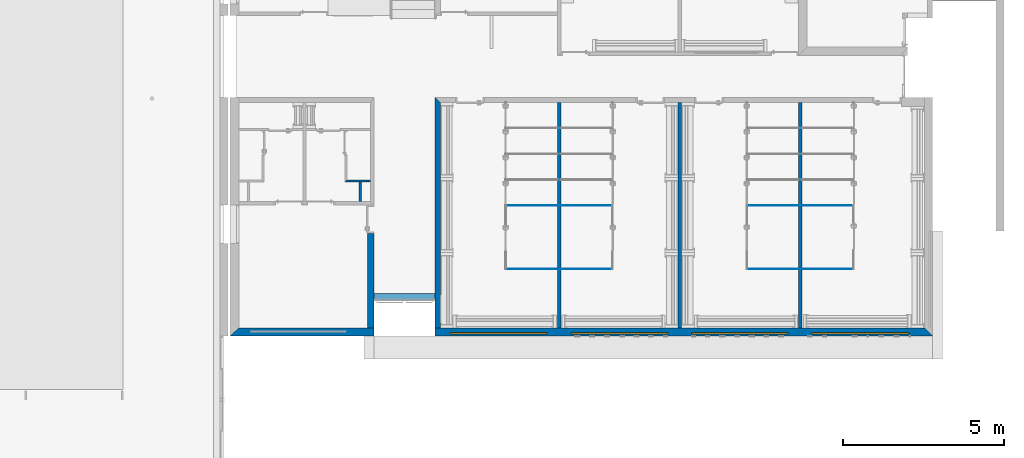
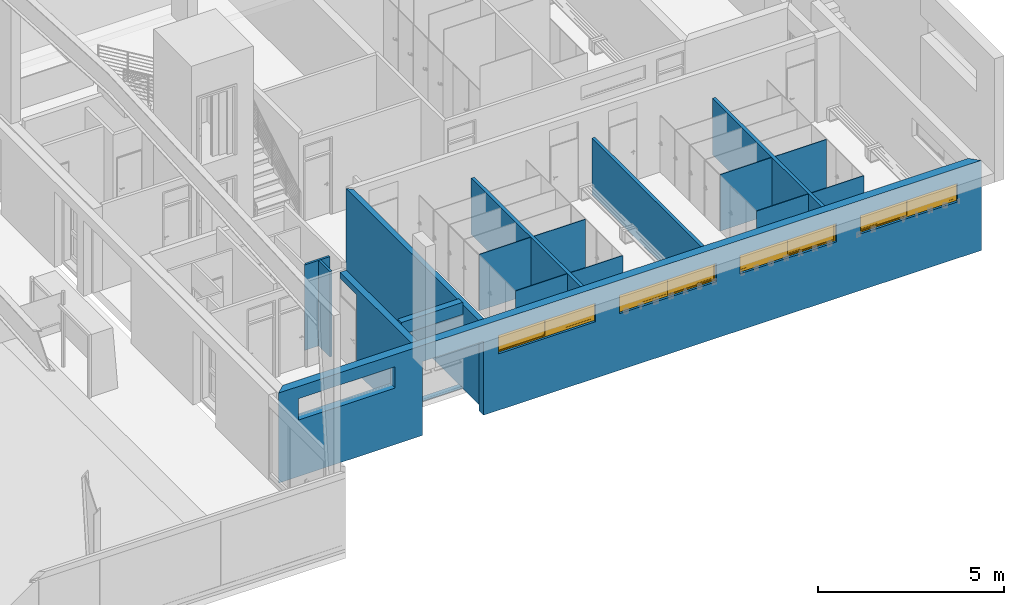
# One storey, part 11 of 45: 17 walls, 4 windows, 8 openings.
"""IFC2X3 building model written with IfcOpenShell, lengths in metres."""

from ifc_helpers import new_model, entity, si_unit, converted_unit, money_unit, direction, frame, origin_with_axes, place, context, subcontext, project, spatial, polyline, outline, extrude, open_shell, faceted_brep, surface_model, source, transform, mapped, material, layer, layer_set, layer_usage, type_object, element, fill, save


model = new_model("IFC2X3")

# Units and contexts
model_context = context("Model", 3, precision=1e-05, world=origin_with_axes(), true_north=direction((0.0, 1.0)))
body_context = subcontext(model_context, "Body", "Model", "MODEL_VIEW")
ifc_project = project(units=[si_unit("LENGTHUNIT", "METRE"), si_unit("AREAUNIT", "SQUARE_METRE"), si_unit("VOLUMEUNIT", "CUBIC_METRE"), converted_unit("PLANEANGLEUNIT", "DEGREE", entity("IfcPlaneAngleMeasure", 0.0174532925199), si_unit("PLANEANGLEUNIT", "RADIAN"), dimensions=[0, 0, 0, 0, 0, 0, 0]), si_unit("SOLIDANGLEUNIT", "STERADIAN"), money_unit("EUR"), converted_unit("TIMEUNIT", "Year", entity("IfcTimeMeasure", 31556926.0), si_unit("TIMEUNIT", "SECOND"), dimensions=[0, 0, 0, 0, 0, 0, 0]), si_unit("MASSUNIT", "GRAM"), si_unit("THERMODYNAMICTEMPERATUREUNIT", "DEGREE_CELSIUS"), si_unit("LUMINOUSINTENSITYUNIT", "LUMEN")], contexts=[model_context])

# Site, building, storey
site_placement = place(None, origin_with_axes())
site = spatial("IfcSite", under=ifc_project, at=site_placement, Name="Site", CompositionType="ELEMENT")
building_placement = place(site_placement, origin_with_axes())
building = spatial("IfcBuilding", under=site, at=building_placement, Name="Bâtiment", CompositionType="ELEMENT")
storey_placement = place(building_placement, origin_with_axes())
storey = spatial("IfcBuildingStorey", under=building, at=storey_placement, Name="NIVEAU BAS GYMNASE", CompositionType="ELEMENT", Elevation=0.0)

# Walls
ifc_material_1 = material(Name="Hachure solide* 3962059836")
ifc_layer_1 = layer(ifc_material_1, 0.07, ventilated="UNKNOWN")
ifc_layer_set_1 = layer_set([ifc_layer_1], Name="Hachure solide* 3962059836 0.07")
ifc_layer_usage_1 = layer_usage(ifc_layer_set_1, "AXIS2", "POSITIVE", 0.0)
wall_type_1 = type_object("IfcWallType", Name="Hachure solide* 3962059836 70", PredefinedType="NOTDEFINED")
wall_1_placement = place(storey_placement, frame((49.838457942, 10.7156830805, 0.0), z_axis=(0.0, 0.0, 1.0), x_axis=(-1.0, 0.0, 0.0)))
element("IfcWallStandardCase", 1, at=wall_1_placement, inside=storey, type_object=wall_type_1, material=ifc_layer_usage_1, Name="Mur-004", context=body_context, shape_type="SweptSolid", body=[
    extrude(outline(polyline([(0.0, 0.0), (0.73, 0.0), (0.8, 0.07), (0.0, 0.07), (0.0, 0.0)])), origin_with_axes(), (0.0, 0.0, 1.0), 2.8),
])
ifc_layer_usage_2 = layer_usage(ifc_layer_set_1, "AXIS2", "POSITIVE", 0.0)
wall_2_placement = place(storey_placement, frame((49.4837596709, 10.7156830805, 0.0), z_axis=(0.0, 0.0, 1.0), x_axis=(0.0, -1.0, 0.0)))
element("IfcWallStandardCase", 2, at=wall_2_placement, inside=storey, type_object=wall_type_1, material=ifc_layer_usage_2, Name="Mur-004", context=body_context, shape_type="SweptSolid", body=[
    extrude(outline(polyline([(0.07, 0.0), (0.676867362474, 0.0), (0.676867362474, 0.07), (0.07, 0.07), (0.07, 0.0)])), origin_with_axes(), (0.0, 0.0, 1.0), 2.8),
])
ifc_layer_2 = layer(ifc_material_1, 0.1, ventilated="UNKNOWN")
ifc_layer_set_2 = layer_set([ifc_layer_2], Name="Hachure solide* 3962059836 0.1")
ifc_layer_usage_3 = layer_usage(ifc_layer_set_2, "AXIS2", "POSITIVE", -0.05)
wall_type_2 = type_object("IfcWallType", Name="Hachure solide* 3962059836 100", PredefinedType="NOTDEFINED")
wall_3_placement = place(storey_placement, frame((63.153457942, 13.108815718, 0.0), z_axis=(0.0, 0.0, 1.0), x_axis=(0.0, -1.0, 0.0)))
element("IfcWallStandardCase", 3, at=wall_3_placement, inside=storey, type_object=wall_type_2, material=ifc_layer_usage_3, Name="Mur-007", context=body_context, shape_type="SweptSolid", body=[
    extrude(outline(polyline([(0.0, -0.05), (6.98000000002, -0.05), (6.98000000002, 0.05), (0.0, 0.05), (0.0, -0.05)])), origin_with_axes(), (0.0, 0.0, 1.0), 1.85),
])
ifc_layer_usage_4 = layer_usage(ifc_layer_set_2, "AXIS2", "POSITIVE", -0.05)
wall_4_placement = place(storey_placement, frame((55.683457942, 13.108815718, 0.0), z_axis=(0.0, 0.0, 1.0), x_axis=(0.0, -1.0, 0.0)))
element("IfcWallStandardCase", 4, at=wall_4_placement, inside=storey, type_object=wall_type_2, material=ifc_layer_usage_4, Name="Mur-007", context=body_context, shape_type="SweptSolid", body=[
    extrude(outline(polyline([(0.0, -0.05), (6.98000000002, -0.05), (6.98000000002, 0.05), (0.0, 0.05), (0.0, -0.05)])), origin_with_axes(), (0.0, 0.0, 1.0), 1.85),
])
ifc_layer_usage_5 = layer_usage(ifc_layer_set_2, "AXIS2", "POSITIVE", -0.05)
wall_5_placement = place(storey_placement, frame((59.418457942, 13.108815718, 0.0), z_axis=(0.0, 0.0, 1.0), x_axis=(0.0, -1.0, 0.0)))
element("IfcWallStandardCase", 5, at=wall_5_placement, inside=storey, type_object=wall_type_2, material=ifc_layer_usage_5, Name="Mur-007", context=body_context, shape_type="SweptSolid", body=[
    extrude(outline(polyline([(0.0, -0.05), (6.98000000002, -0.05), (6.98000000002, 0.05), (0.0, 0.05), (0.0, -0.05)])), origin_with_axes(), (0.0, 0.0, 1.0), 1.85),
])

# Wall, openings, windows
ifc_material_2 = material(Name="Hachure solide* 2593434267")
ifc_layer_3 = layer(ifc_material_2, 0.16, ventilated="UNKNOWN")
ifc_material_3 = material(Name="Empty Fill 290923149")
ifc_layer_4 = layer(ifc_material_3, 0.08, ventilated="UNKNOWN")
ifc_material_4 = material(Name="Hachure solide* 3992800808")
ifc_layer_5 = layer(ifc_material_4, 0.02, ventilated="UNKNOWN")
ifc_layer_set_3 = layer_set([ifc_layer_3, ifc_layer_4, ifc_layer_5], Name="•GYMN 16+10 (1)")
ifc_layer_usage_6 = layer_usage(ifc_layer_set_3, "AXIS2", "POSITIVE", 0.0)
wall_type_3 = type_object("IfcWallType", Name="•GYMN 16+10 260", PredefinedType="NOTDEFINED")
wall_6_placement = place(storey_placement, frame((45.478457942, 5.86881571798, -0.2), z_axis=(0.0, 0.0, 1.0), x_axis=(1.0, 0.0, 0.0)))
wall_6 = element("IfcWallStandardCase", 6, at=wall_6_placement, inside=storey, type_object=wall_type_3, material=ifc_layer_usage_6, Name="Mur-022", context=body_context, shape_type="SweptSolid", body=[
    extrude(outline(polyline([(0.0, 0.0), (21.78, 0.0), (21.52, 0.26), (0.28, 0.26), (0.0, 0.0)])), origin_with_axes(), (0.0, 0.0, 1.0), 2.95),
])
opening_1_placement = place(wall_6_placement, frame((12.0763384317, 0.0, 1.85), z_axis=(0.0, 0.0, 1.0), x_axis=(1.0, 0.0, 0.0)))
opening_1 = element("IfcOpeningElement", 7, at=opening_1_placement, cuts=wall_6, Name="Fen-027", context=body_context, shape_type="SweptSolid", body=[
    extrude(outline(polyline([(1.5, 0.0), (-1.5, 0.0), (-1.5, -0.6), (1.5, -0.6), (1.5, 0.0)])), frame((0.0, 0.12, 0.0), z_axis=(0.0, 1.0, 0.0), x_axis=(1.0, 0.0, 0.0)), (0.0, 0.0, 1.0), 0.4),
    extrude(outline(polyline([(1.5, 0.6), (-1.5, 0.6), (-1.5, 0.0), (1.5, 0.0), (1.5, 0.6)])), frame((0.0, 0.12, 0.0), z_axis=(0.0, -1.0, 0.0), x_axis=(1.0, 0.0, 0.0)), (0.0, 0.0, 1.0), 0.38),
])
opening_2_placement = place(wall_6_placement, frame((8.32745967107, 0.0, 1.85), z_axis=(0.0, 0.0, 1.0), x_axis=(1.0, 0.0, 0.0)))
opening_2 = element("IfcOpeningElement", 8, at=opening_2_placement, cuts=wall_6, Name="Fen-028", context=body_context, shape_type="SweptSolid", body=[
    extrude(outline(polyline([(-1.5, 0.0), (-1.5, -0.6), (1.5, -0.6), (1.5, 0.0), (-1.5, 0.0)])), frame((0.0, 0.12, 0.0), z_axis=(0.0, 1.0, 0.0), x_axis=(1.0, 0.0, 0.0)), (0.0, 0.0, 1.0), 0.4),
    extrude(outline(polyline([(-1.5, 0.6), (-1.5, 0.0), (1.5, 0.0), (1.5, 0.6), (-1.5, 0.6)])), frame((0.0, 0.12, 0.0), z_axis=(0.0, -1.0, 0.0), x_axis=(1.0, 0.0, 0.0)), (0.0, 0.0, 1.0), 0.38),
])
opening_3_placement = place(wall_6_placement, frame((15.8, 0.0, 1.85), z_axis=(0.0, 0.0, 1.0), x_axis=(1.0, 0.0, 0.0)))
opening_3 = element("IfcOpeningElement", 9, at=opening_3_placement, cuts=wall_6, Name="Fen-026", context=body_context, shape_type="SweptSolid", body=[
    extrude(outline(polyline([(1.5, 0.0), (-1.5, 0.0), (-1.5, -0.6), (1.5, -0.6), (1.5, 0.0)])), frame((0.0, 0.12, 0.0), z_axis=(0.0, 1.0, 0.0), x_axis=(1.0, 0.0, 0.0)), (0.0, 0.0, 1.0), 0.4),
    extrude(outline(polyline([(1.5, 0.6), (-1.5, 0.6), (-1.5, 0.0), (1.5, 0.0), (1.5, 0.6)])), frame((0.0, 0.12, 0.0), z_axis=(0.0, -1.0, 0.0), x_axis=(1.0, 0.0, 0.0)), (0.0, 0.0, 1.0), 0.38),
])
opening_4_placement = place(wall_6_placement, frame((19.545, 0.0, 1.85), z_axis=(0.0, 0.0, 1.0), x_axis=(1.0, 0.0, 0.0)))
opening_4 = element("IfcOpeningElement", 10, at=opening_4_placement, cuts=wall_6, Name="Fen-026", context=body_context, shape_type="SweptSolid", body=[
    extrude(outline(polyline([(-1.5, 0.0), (-1.5, -0.6), (1.5, -0.6), (1.5, 0.0), (-1.5, 0.0)])), frame((0.0, 0.12, 0.0), z_axis=(0.0, 1.0, 0.0), x_axis=(1.0, 0.0, 0.0)), (0.0, 0.0, 1.0), 0.4),
    extrude(outline(polyline([(-1.5, 0.6), (-1.5, 0.0), (1.5, 0.0), (1.5, 0.6), (-1.5, 0.6)])), frame((0.0, 0.12, 0.0), z_axis=(0.0, -1.0, 0.0), x_axis=(1.0, 0.0, 0.0)), (0.0, 0.0, 1.0), 0.38),
])
opening_5_placement = place(wall_6_placement, frame((2.1177436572, 0.0, 1.85), z_axis=(0.0, 0.0, 1.0), x_axis=(1.0, 0.0, 0.0)))
element("IfcOpeningElement", 11, at=opening_5_placement, cuts=wall_6, Name="Fen-028", context=body_context, shape_type="SweptSolid", body=[
    extrude(outline(polyline([(-1.5, 0.7), (-1.5, 0.0), (1.5, 0.0), (1.5, 0.7), (-1.5, 0.7)])), frame((0.0, 0.18, 0.0), z_axis=(0.0, -1.0, 0.0), x_axis=(1.0, 0.0, 0.0)), (0.0, 0.0, 1.0), 0.44),
    extrude(outline(polyline([(-1.5, 0.0), (-1.5, -0.7), (1.5, -0.7), (1.5, 0.0), (-1.5, 0.0)])), frame((0.0, 0.18, 0.0), z_axis=(0.0, 1.0, 0.0), x_axis=(1.0, 0.0, 0.0)), (0.0, 0.0, 1.0), 0.34),
])
opening_6_placement = place(wall_6_placement, frame((5.41, 0.0, 0.0), z_axis=(0.0, 0.0, 1.0), x_axis=(1.0, 0.0, 0.0)))
element("IfcOpeningElement", 12, at=opening_6_placement, cuts=wall_6, Name="Por-001", context=body_context, shape_type="SweptSolid", body=[
    extrude(outline(polyline([(-0.95, 0.0), (-0.95, -2.42), (0.95, -2.42), (0.95, 0.0), (-0.95, 0.0)])), frame((0.0, 0.11, 0.0), z_axis=(0.0, 1.0, 0.0), x_axis=(1.0, 0.0, 0.0)), (0.0, 0.0, 1.0), 0.26),
    extrude(outline(polyline([(-0.95, 2.42), (-0.95, 0.0), (0.95, 0.0), (0.95, 2.42), (-0.95, 2.42)])), frame((0.0, 0.11, 0.0), z_axis=(0.0, -1.0, 0.0), x_axis=(1.0, 0.0, 0.0)), (0.0, 0.0, 1.0), 0.26),
])
ifc_material_5 = material(Name="Sans Trame")
window_style = type_object("IfcWindowStyle", Name="Fen double hor coul 10", ConstructionType="NOTDEFINED", OperationType="DOUBLE_PANEL_VERTICAL", ParameterTakesPrecedence=False, Sizeable=False)
shared_shape_1 = source(origin_with_axes(), body_context, "Body", "SurfaceModel", [
    faceted_brep([(1.46, -0.14, 0.04), (1.46, -0.19, 0.04), (1.46, -0.19, 0.56), (1.46, -0.14, 0.56), (1.5, -0.14, 0.04), (1.5, -0.19, 0.04), (1.5, -0.19, 0.56), (1.5, -0.14, 0.56)], [[[0, 1, 2, 3]], [[4, 5, 1, 0]], [[1, 5, 6, 2]], [[3, 2, 6, 7]], [[0, 3, 7, 4]], [[7, 6, 5, 4]]]),
    faceted_brep([(-1.5, -0.14, 0.04), (-1.5, -0.19, 0.04), (-1.5, -0.19, 0.56), (-1.5, -0.14, 0.56), (-1.46, -0.14, 0.04), (-1.46, -0.19, 0.04), (-1.46, -0.19, 0.56), (-1.46, -0.14, 0.56)], [[[0, 1, 2, 3]], [[4, 5, 1, 0]], [[1, 5, 6, 2]], [[3, 2, 6, 7]], [[0, 3, 7, 4]], [[7, 6, 5, 4]]]),
    faceted_brep([(1.5, -0.14, 0.0), (1.5, -0.19, 0.0), (-1.5, -0.19, 0.0), (-1.5, -0.14, 0.0), (1.5, -0.14, 0.04), (1.5, -0.19, 0.04), (1.46, -0.19, 0.04), (-1.46, -0.19, 0.04), (-1.5, -0.19, 0.04), (-1.5, -0.14, 0.04), (-1.46, -0.14, 0.04), (1.46, -0.14, 0.04)], [[[0, 1, 2, 3]], [[4, 5, 1, 0]], [[1, 5, 6, 7, 8, 2]], [[3, 2, 8, 9]], [[0, 3, 9, 10, 11, 4]], [[11, 6, 5, 4]], [[10, 7, 6, 11]], [[9, 8, 7, 10]]]),
    faceted_brep([(1.5, -0.14, 0.56), (1.5, -0.19, 0.56), (1.46, -0.19, 0.56), (1.46, -0.14, 0.56), (1.5, -0.14, 0.6), (1.5, -0.19, 0.6), (-1.5, -0.19, 0.6), (-1.5, -0.19, 0.56), (-1.46, -0.19, 0.56), (-1.46, -0.14, 0.56), (-1.5, -0.14, 0.56), (-1.5, -0.14, 0.6)], [[[0, 1, 2, 3]], [[4, 5, 1, 0]], [[1, 5, 6, 7, 8, 2]], [[3, 2, 8, 9]], [[0, 3, 9, 10, 11, 4]], [[11, 6, 5, 4]], [[10, 7, 6, 11]], [[9, 8, 7, 10]]]),
    faceted_brep([(1.42, -0.14, 0.08), (1.42, -0.165, 0.08), (1.42, -0.165, 0.52), (1.42, -0.14, 0.52), (1.46, -0.14, 0.08), (1.46, -0.165, 0.08), (1.46, -0.165, 0.52), (1.46, -0.14, 0.52)], [[[0, 1, 2, 3]], [[4, 5, 1, 0]], [[1, 5, 6, 2]], [[3, 2, 6, 7]], [[0, 3, 7, 4]], [[7, 6, 5, 4]]]),
    faceted_brep([(-0.02, -0.14, 0.08), (-0.02, -0.165, 0.08), (-0.02, -0.165, 0.52), (-0.02, -0.14, 0.52), (0.02, -0.14, 0.08), (0.02, -0.165, 0.08), (0.02, -0.165, 0.52), (0.02, -0.14, 0.52)], [[[0, 1, 2, 3]], [[4, 5, 1, 0]], [[1, 5, 6, 2]], [[3, 2, 6, 7]], [[0, 3, 7, 4]], [[7, 6, 5, 4]]]),
    faceted_brep([(-0.02, -0.14, 0.04), (-0.02, -0.165, 0.04), (-0.02, -0.165, 0.08), (-0.02, -0.14, 0.08), (1.46, -0.14, 0.04), (1.46, -0.165, 0.04), (1.46, -0.165, 0.08), (1.42, -0.165, 0.08), (0.02, -0.165, 0.08), (0.02, -0.14, 0.08), (1.42, -0.14, 0.08), (1.46, -0.14, 0.08)], [[[0, 1, 2, 3]], [[4, 5, 1, 0]], [[1, 5, 6, 7, 8, 2]], [[3, 2, 8, 9]], [[0, 3, 9, 10, 11, 4]], [[11, 6, 5, 4]], [[10, 7, 6, 11]], [[9, 8, 7, 10]]]),
    faceted_brep([(1.46, -0.14, 0.56), (1.46, -0.165, 0.56), (1.46, -0.165, 0.52), (1.46, -0.14, 0.52), (-0.02, -0.14, 0.56), (-0.02, -0.165, 0.56), (-0.02, -0.165, 0.52), (0.02, -0.165, 0.52), (1.42, -0.165, 0.52), (1.42, -0.14, 0.52), (0.02, -0.14, 0.52), (-0.02, -0.14, 0.52)], [[[0, 1, 2, 3]], [[4, 5, 1, 0]], [[1, 5, 6, 7, 8, 2]], [[3, 2, 8, 9]], [[0, 3, 9, 10, 11, 4]], [[11, 6, 5, 4]], [[10, 7, 6, 11]], [[9, 8, 7, 10]]]),
    surface_model("IfcShellBasedSurfaceModel", [(1.42, -0.1425, 0.08), (0.02, -0.1425, 0.08), (0.02, -0.1425, 0.52), (1.42, -0.1425, 0.52)], [open_shell([[[0, 1, 2, 3]]])]),
    surface_model("IfcShellBasedSurfaceModel", [(1.42, -0.1625, 0.08), (1.42, -0.1625, 0.52), (0.02, -0.1625, 0.52), (0.02, -0.1625, 0.08)], [open_shell([[[0, 1, 2, 3]]])]),
    faceted_brep([(-0.02, -0.165, 0.08), (-0.02, -0.19, 0.08), (-0.02, -0.19, 0.52), (-0.02, -0.165, 0.52), (0.02, -0.165, 0.08), (0.02, -0.19, 0.08), (0.02, -0.19, 0.52), (0.02, -0.165, 0.52)], [[[0, 1, 2, 3]], [[4, 5, 1, 0]], [[1, 5, 6, 2]], [[3, 2, 6, 7]], [[0, 3, 7, 4]], [[7, 6, 5, 4]]]),
    faceted_brep([(-1.46, -0.165, 0.08), (-1.46, -0.19, 0.08), (-1.46, -0.19, 0.52), (-1.46, -0.165, 0.52), (-1.42, -0.165, 0.08), (-1.42, -0.19, 0.08), (-1.42, -0.19, 0.52), (-1.42, -0.165, 0.52)], [[[0, 1, 2, 3]], [[4, 5, 1, 0]], [[1, 5, 6, 2]], [[3, 2, 6, 7]], [[0, 3, 7, 4]], [[7, 6, 5, 4]]]),
    faceted_brep([(-1.46, -0.165, 0.04), (-1.46, -0.19, 0.04), (-1.46, -0.19, 0.08), (-1.46, -0.165, 0.08), (0.02, -0.165, 0.04), (0.02, -0.19, 0.04), (0.02, -0.19, 0.08), (-0.02, -0.19, 0.08), (-1.42, -0.19, 0.08), (-1.42, -0.165, 0.08), (-0.02, -0.165, 0.08), (0.02, -0.165, 0.08)], [[[0, 1, 2, 3]], [[4, 5, 1, 0]], [[1, 5, 6, 7, 8, 2]], [[3, 2, 8, 9]], [[0, 3, 9, 10, 11, 4]], [[11, 6, 5, 4]], [[10, 7, 6, 11]], [[9, 8, 7, 10]]]),
    faceted_brep([(0.02, -0.165, 0.56), (0.02, -0.19, 0.56), (0.02, -0.19, 0.52), (0.02, -0.165, 0.52), (-1.46, -0.165, 0.56), (-1.46, -0.19, 0.56), (-1.46, -0.19, 0.52), (-1.42, -0.19, 0.52), (-0.02, -0.19, 0.52), (-0.02, -0.165, 0.52), (-1.42, -0.165, 0.52), (-1.46, -0.165, 0.52)], [[[0, 1, 2, 3]], [[4, 5, 1, 0]], [[1, 5, 6, 7, 8, 2]], [[3, 2, 8, 9]], [[0, 3, 9, 10, 11, 4]], [[11, 6, 5, 4]], [[10, 7, 6, 11]], [[9, 8, 7, 10]]]),
    surface_model("IfcShellBasedSurfaceModel", [(-0.02, -0.1675, 0.08), (-1.42, -0.1675, 0.08), (-1.42, -0.1675, 0.52), (-0.02, -0.1675, 0.52)], [open_shell([[[0, 1, 2, 3]]])]),
    surface_model("IfcShellBasedSurfaceModel", [(-0.02, -0.1875, 0.08), (-0.02, -0.1875, 0.52), (-1.42, -0.1875, 0.52), (-1.42, -0.1875, 0.08)], [open_shell([[[0, 1, 2, 3]]])]),
])
window_1_placement = place(opening_1_placement, frame((-1.5, 0.0, 0.0), z_axis=(0.0, 0.0, 1.0), x_axis=(1.0, 0.0, 0.0)))
window_1 = element("IfcWindow", 13, at=window_1_placement, inside=storey, type_object=window_style, material=ifc_material_5, Name="Fen-027", OverallHeight=0.6, OverallWidth=3.0, context=body_context, shape_type="MappedRepresentation", body=[
    mapped(shared_shape_1, transform((1.5, 0.26, 0.0))),
])
fill(opening_1, window_1)
window_2_placement = place(opening_3_placement, frame((-1.5, 0.0, 0.0), z_axis=(0.0, 0.0, 1.0), x_axis=(1.0, 0.0, 0.0)))
window_2 = element("IfcWindow", 14, at=window_2_placement, inside=storey, type_object=window_style, material=ifc_material_5, Name="Fen-026", OverallHeight=0.6, OverallWidth=3.0, context=body_context, shape_type="MappedRepresentation", body=[
    mapped(shared_shape_1, transform((1.5, 0.26, 0.0))),
])
fill(opening_3, window_2)
shared_shape_2 = source(origin_with_axes(), body_context, "Body", "SurfaceModel", [
    faceted_brep([(-1.46, -0.14, 0.04), (-1.46, -0.14, 0.56), (-1.46, -0.19, 0.56), (-1.46, -0.19, 0.04), (-1.5, -0.14, 0.04), (-1.5, -0.14, 0.56), (-1.5, -0.19, 0.56), (-1.5, -0.19, 0.04)], [[[0, 1, 2, 3]], [[0, 4, 5, 1]], [[1, 5, 6, 2]], [[3, 2, 6, 7]], [[4, 0, 3, 7]], [[5, 4, 7, 6]]]),
    faceted_brep([(1.5, -0.14, 0.04), (1.5, -0.14, 0.56), (1.5, -0.19, 0.56), (1.5, -0.19, 0.04), (1.46, -0.14, 0.04), (1.46, -0.14, 0.56), (1.46, -0.19, 0.56), (1.46, -0.19, 0.04)], [[[0, 1, 2, 3]], [[0, 4, 5, 1]], [[1, 5, 6, 2]], [[3, 2, 6, 7]], [[4, 0, 3, 7]], [[5, 4, 7, 6]]]),
    faceted_brep([(-1.5, -0.14, 0.0), (1.5, -0.14, 0.0), (1.5, -0.19, 0.0), (-1.5, -0.19, 0.0), (-1.5, -0.14, 0.04), (-1.46, -0.14, 0.04), (1.46, -0.14, 0.04), (1.5, -0.14, 0.04), (1.5, -0.19, 0.04), (1.46, -0.19, 0.04), (-1.46, -0.19, 0.04), (-1.5, -0.19, 0.04)], [[[0, 1, 2, 3]], [[0, 4, 5, 6, 7, 1]], [[1, 7, 8, 2]], [[3, 2, 8, 9, 10, 11]], [[4, 0, 3, 11]], [[5, 4, 11, 10]], [[6, 5, 10, 9]], [[7, 6, 9, 8]]]),
    faceted_brep([(-1.5, -0.14, 0.56), (-1.46, -0.14, 0.56), (-1.46, -0.19, 0.56), (-1.5, -0.19, 0.56), (-1.5, -0.14, 0.6), (1.5, -0.14, 0.6), (1.5, -0.14, 0.56), (1.46, -0.14, 0.56), (1.46, -0.19, 0.56), (1.5, -0.19, 0.56), (1.5, -0.19, 0.6), (-1.5, -0.19, 0.6)], [[[0, 1, 2, 3]], [[0, 4, 5, 6, 7, 1]], [[1, 7, 8, 2]], [[3, 2, 8, 9, 10, 11]], [[4, 0, 3, 11]], [[5, 4, 11, 10]], [[6, 5, 10, 9]], [[7, 6, 9, 8]]]),
    faceted_brep([(-1.42, -0.14, 0.08), (-1.42, -0.14, 0.52), (-1.42, -0.165, 0.52), (-1.42, -0.165, 0.08), (-1.46, -0.14, 0.08), (-1.46, -0.14, 0.52), (-1.46, -0.165, 0.52), (-1.46, -0.165, 0.08)], [[[0, 1, 2, 3]], [[0, 4, 5, 1]], [[1, 5, 6, 2]], [[3, 2, 6, 7]], [[4, 0, 3, 7]], [[5, 4, 7, 6]]]),
    faceted_brep([(0.02, -0.14, 0.08), (0.02, -0.14, 0.52), (0.02, -0.165, 0.52), (0.02, -0.165, 0.08), (-0.02, -0.14, 0.08), (-0.02, -0.14, 0.52), (-0.02, -0.165, 0.52), (-0.02, -0.165, 0.08)], [[[0, 1, 2, 3]], [[0, 4, 5, 1]], [[1, 5, 6, 2]], [[3, 2, 6, 7]], [[4, 0, 3, 7]], [[5, 4, 7, 6]]]),
    faceted_brep([(0.02, -0.14, 0.04), (0.02, -0.14, 0.08), (0.02, -0.165, 0.08), (0.02, -0.165, 0.04), (-1.46, -0.14, 0.04), (-1.46, -0.14, 0.08), (-1.42, -0.14, 0.08), (-0.02, -0.14, 0.08), (-0.02, -0.165, 0.08), (-1.42, -0.165, 0.08), (-1.46, -0.165, 0.08), (-1.46, -0.165, 0.04)], [[[0, 1, 2, 3]], [[0, 4, 5, 6, 7, 1]], [[1, 7, 8, 2]], [[3, 2, 8, 9, 10, 11]], [[4, 0, 3, 11]], [[5, 4, 11, 10]], [[6, 5, 10, 9]], [[7, 6, 9, 8]]]),
    faceted_brep([(-1.46, -0.14, 0.56), (-1.46, -0.14, 0.52), (-1.46, -0.165, 0.52), (-1.46, -0.165, 0.56), (0.02, -0.14, 0.56), (0.02, -0.14, 0.52), (-0.02, -0.14, 0.52), (-1.42, -0.14, 0.52), (-1.42, -0.165, 0.52), (-0.02, -0.165, 0.52), (0.02, -0.165, 0.52), (0.02, -0.165, 0.56)], [[[0, 1, 2, 3]], [[0, 4, 5, 6, 7, 1]], [[1, 7, 8, 2]], [[3, 2, 8, 9, 10, 11]], [[4, 0, 3, 11]], [[5, 4, 11, 10]], [[6, 5, 10, 9]], [[7, 6, 9, 8]]]),
    surface_model("IfcShellBasedSurfaceModel", [(-1.42, -0.1425, 0.08), (-1.42, -0.1425, 0.52), (-0.02, -0.1425, 0.52), (-0.02, -0.1425, 0.08)], [open_shell([[[0, 1, 2, 3]]])]),
    surface_model("IfcShellBasedSurfaceModel", [(-1.42, -0.1625, 0.08), (-0.02, -0.1625, 0.08), (-0.02, -0.1625, 0.52), (-1.42, -0.1625, 0.52)], [open_shell([[[0, 1, 2, 3]]])]),
    faceted_brep([(0.02, -0.165, 0.08), (0.02, -0.165, 0.52), (0.02, -0.19, 0.52), (0.02, -0.19, 0.08), (-0.02, -0.165, 0.08), (-0.02, -0.165, 0.52), (-0.02, -0.19, 0.52), (-0.02, -0.19, 0.08)], [[[0, 1, 2, 3]], [[0, 4, 5, 1]], [[1, 5, 6, 2]], [[3, 2, 6, 7]], [[4, 0, 3, 7]], [[5, 4, 7, 6]]]),
    faceted_brep([(1.46, -0.165, 0.08), (1.46, -0.165, 0.52), (1.46, -0.19, 0.52), (1.46, -0.19, 0.08), (1.42, -0.165, 0.08), (1.42, -0.165, 0.52), (1.42, -0.19, 0.52), (1.42, -0.19, 0.08)], [[[0, 1, 2, 3]], [[0, 4, 5, 1]], [[1, 5, 6, 2]], [[3, 2, 6, 7]], [[4, 0, 3, 7]], [[5, 4, 7, 6]]]),
    faceted_brep([(1.46, -0.165, 0.04), (1.46, -0.165, 0.08), (1.46, -0.19, 0.08), (1.46, -0.19, 0.04), (-0.02, -0.165, 0.04), (-0.02, -0.165, 0.08), (0.02, -0.165, 0.08), (1.42, -0.165, 0.08), (1.42, -0.19, 0.08), (0.02, -0.19, 0.08), (-0.02, -0.19, 0.08), (-0.02, -0.19, 0.04)], [[[0, 1, 2, 3]], [[0, 4, 5, 6, 7, 1]], [[1, 7, 8, 2]], [[3, 2, 8, 9, 10, 11]], [[4, 0, 3, 11]], [[5, 4, 11, 10]], [[6, 5, 10, 9]], [[7, 6, 9, 8]]]),
    faceted_brep([(-0.02, -0.165, 0.56), (-0.02, -0.165, 0.52), (-0.02, -0.19, 0.52), (-0.02, -0.19, 0.56), (1.46, -0.165, 0.56), (1.46, -0.165, 0.52), (1.42, -0.165, 0.52), (0.02, -0.165, 0.52), (0.02, -0.19, 0.52), (1.42, -0.19, 0.52), (1.46, -0.19, 0.52), (1.46, -0.19, 0.56)], [[[0, 1, 2, 3]], [[0, 4, 5, 6, 7, 1]], [[1, 7, 8, 2]], [[3, 2, 8, 9, 10, 11]], [[4, 0, 3, 11]], [[5, 4, 11, 10]], [[6, 5, 10, 9]], [[7, 6, 9, 8]]]),
    surface_model("IfcShellBasedSurfaceModel", [(0.02, -0.1675, 0.08), (0.02, -0.1675, 0.52), (1.42, -0.1675, 0.52), (1.42, -0.1675, 0.08)], [open_shell([[[0, 1, 2, 3]]])]),
    surface_model("IfcShellBasedSurfaceModel", [(0.02, -0.1875, 0.08), (1.42, -0.1875, 0.08), (1.42, -0.1875, 0.52), (0.02, -0.1875, 0.52)], [open_shell([[[0, 1, 2, 3]]])]),
])
window_3_placement = place(opening_2_placement, frame((-1.5, 0.0, 0.0), z_axis=(0.0, 0.0, 1.0), x_axis=(1.0, 0.0, 0.0)))
window_3 = element("IfcWindow", 15, at=window_3_placement, inside=storey, type_object=window_style, material=ifc_material_5, Name="Fen-028", OverallHeight=0.6, OverallWidth=3.0, context=body_context, shape_type="MappedRepresentation", body=[
    mapped(shared_shape_2, transform((1.5, 0.26, 0.0))),
])
fill(opening_2, window_3)
window_4_placement = place(opening_4_placement, frame((-1.5, 0.0, 0.0), z_axis=(0.0, 0.0, 1.0), x_axis=(1.0, 0.0, 0.0)))
window_4 = element("IfcWindow", 16, at=window_4_placement, inside=storey, type_object=window_style, material=ifc_material_5, Name="Fen-026", OverallHeight=0.6, OverallWidth=3.0, context=body_context, shape_type="MappedRepresentation", body=[
    mapped(shared_shape_2, transform((1.5, 0.26, 0.0))),
])
fill(opening_4, window_4)

# Wall, opening
ifc_layer_6 = layer(ifc_material_4, 0.02, ventilated="UNKNOWN")
ifc_layer_7 = layer(ifc_material_3, 0.08, ventilated="UNKNOWN")
ifc_material_6 = material(Name="Hachure solide* 4022991772")
ifc_layer_8 = layer(ifc_material_6, 0.1, ventilated="UNKNOWN")
ifc_layer_set_4 = layer_set([ifc_layer_6, ifc_layer_7, ifc_layer_8], Name="•GYMN 10+10 0232896968")
ifc_layer_usage_7 = layer_usage(ifc_layer_set_4, "AXIS2", "POSITIVE", -0.2)
wall_type_4 = type_object("IfcWallType", Name="•GYMN 10+10 0232896968 200", PredefinedType="NOTDEFINED")
wall_7_placement = place(storey_placement, frame((49.938457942, 9.93881571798, 0.0), z_axis=(0.0, 0.0, 1.0), x_axis=(0.0, -1.0, 0.0)))
wall_7 = element("IfcWallStandardCase", 17, at=wall_7_placement, inside=storey, type_object=wall_type_4, material=ifc_layer_usage_7, Name="Mur-004", context=body_context, shape_type="SweptSolid", body=[
    extrude(outline(polyline([(0.0, -0.2), (3.81, -0.2), (3.81, 0.0), (0.0, 0.0), (0.0, -0.2)])), origin_with_axes(), (0.0, 0.0, 1.0), 2.75),
])
opening_7_placement = place(wall_7_placement, frame((0.444999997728, 0.0, -0.01), z_axis=(0.0, 0.0, 1.0), x_axis=(1.0, 0.0, 0.0)))
element("IfcOpeningElement", 18, at=opening_7_placement, cuts=wall_7, Name="Por-017", context=body_context, shape_type="SweptSolid", body=[
    extrude(outline(polyline([(-0.445, 0.0), (-0.445, -2.555), (0.445, -2.555), (0.445, 0.0), (-0.445, 0.0)])), frame((0.0, 0.2, 0.0), z_axis=(0.0, -1.0, 0.0), x_axis=(-1.0, 0.0, 0.0)), (0.0, 0.0, 1.0), 0.4),
])

ifc_layer_usage_8 = layer_usage(ifc_layer_set_4, "AXIS2", "POSITIVE", -0.2)
wall_8_placement = place(storey_placement, frame((51.838457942, 6.98881571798, 0.0), z_axis=(0.0, 0.0, 1.0), x_axis=(-1.0, 0.0, 0.0)))
wall_8 = element("IfcWallStandardCase", 19, at=wall_8_placement, inside=storey, type_object=wall_type_4, material=ifc_layer_usage_8, Name="Mur-022", context=body_context, shape_type="SweptSolid", body=[
    extrude(outline(polyline([(0.0, -0.2), (1.9, -0.2), (1.9, 0.0), (0.0, 0.0), (0.0, -0.2)])), origin_with_axes(), (0.0, 0.0, 1.0), 2.82),
])
opening_8_placement = place(wall_8_placement, frame((0.95, 0.0, 0.02), z_axis=(0.0, 0.0, 1.0), x_axis=(1.0, 0.0, 0.0)))
element("IfcOpeningElement", 20, at=opening_8_placement, cuts=wall_8, Name="Por-013", context=body_context, shape_type="SweptSolid", body=[
    extrude(outline(polyline([(0.95, -2.4), (0.95, 0.0), (-0.95, 0.0), (-0.95, -2.4), (0.95, -2.4)])), frame((0.0, -0.05, 0.0), z_axis=(0.0, -1.0, 0.0), x_axis=(-1.0, 0.0, 0.0)), (0.0, 0.0, 1.0), 0.2),
    extrude(outline(polyline([(0.95, 0.0), (0.95, 2.4), (-0.95, 2.4), (-0.95, 0.0), (0.95, 0.0)])), frame((0.0, -0.05, 0.0), z_axis=(0.0, 1.0, 0.0), x_axis=(-1.0, 0.0, 0.0)), (0.0, 0.0, 1.0), 0.2),
])

# Walls
ifc_material_7 = material(Name="Hachure solide* 3914859788")
ifc_layer_9 = layer(ifc_material_7, 0.16, ventilated="UNKNOWN")
ifc_layer_set_5 = layer_set([ifc_layer_9], Name="Hachure solide* 3914859788 0.16")
ifc_layer_usage_9 = layer_usage(ifc_layer_set_5, "AXIS2", "POSITIVE", 0.0)
wall_type_5 = type_object("IfcWallType", Name="Hachure solide* 3914859788 160", PredefinedType="NOTDEFINED")
wall_9_placement = place(storey_placement, frame((51.838457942, 13.108815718, 0.0), z_axis=(0.0, 0.0, 1.0), x_axis=(0.0, -1.0, 0.0)))
element("IfcWallStandardCase", 21, at=wall_9_placement, inside=storey, type_object=wall_type_5, material=ifc_layer_usage_9, Name="Mur-004", context=body_context, shape_type="SweptSolid", body=[
    extrude(outline(polyline([(-0.16, 0.0), (6.98000000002, 0.0), (6.98000000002, 0.16), (0.0, 0.16), (-0.16, 0.0)])), origin_with_axes(), (0.0, 0.0, 1.0), 2.75),
])
ifc_material_8 = material(Name="Hachure solide 3821565075")
ifc_layer_10 = layer(ifc_material_8, 0.02, ventilated="UNKNOWN")
ifc_layer_set_6 = layer_set([ifc_layer_10], Name="Hachure solide 3821565075 0.02")
ifc_layer_usage_10 = layer_usage(ifc_layer_set_6, "AXIS2", "POSITIVE", -0.01)
wall_type_6 = type_object("IfcWallType", Name="Hachure solide 3821565075 20", PredefinedType="NOTDEFINED")
wall_10_placement = place(storey_placement, frame((63.153457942, 9.9186907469, 0.0), z_axis=(0.0, 0.0, 1.0), x_axis=(1.0, 0.0, 0.0)))
element("IfcWallStandardCase", 22, at=wall_10_placement, inside=storey, type_object=wall_type_6, material=ifc_layer_usage_10, Name="Mur-023", context=body_context, shape_type="SweptSolid", body=[
    extrude(outline(polyline([(0.05, -0.01), (1.6447553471, -0.01), (1.6447553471, 0.01), (0.05, 0.01), (0.05, -0.01)])), origin_with_axes(), (0.0, 0.0, 1.0), 1.85),
])
ifc_layer_usage_11 = layer_usage(ifc_layer_set_6, "AXIS2", "POSITIVE", -0.01)
wall_11_placement = place(storey_placement, frame((55.683457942, 9.9186907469, 0.0), z_axis=(0.0, 0.0, 1.0), x_axis=(1.0, 0.0, 0.0)))
element("IfcWallStandardCase", 23, at=wall_11_placement, inside=storey, type_object=wall_type_6, material=ifc_layer_usage_11, Name="Mur-023", context=body_context, shape_type="SweptSolid", body=[
    extrude(outline(polyline([(0.05, -0.01), (1.6447553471, -0.01), (1.6447553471, 0.01), (0.05, 0.01), (0.05, -0.01)])), origin_with_axes(), (0.0, 0.0, 1.0), 1.85),
])
ifc_layer_usage_12 = layer_usage(ifc_layer_set_6, "AXIS2", "POSITIVE", -0.01)
wall_12_placement = place(storey_placement, frame((55.683457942, 9.9186907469, 0.0), z_axis=(0.0, 0.0, 1.0), x_axis=(-1.0, 0.0, 0.0)))
element("IfcWallStandardCase", 24, at=wall_12_placement, inside=storey, type_object=wall_type_6, material=ifc_layer_usage_12, Name="Mur-023", context=body_context, shape_type="SweptSolid", body=[
    extrude(outline(polyline([(0.05, -0.01), (1.6447553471, -0.01), (1.6447553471, 0.01), (0.05, 0.01), (0.05, -0.01)])), origin_with_axes(), (0.0, 0.0, 1.0), 1.85),
])
ifc_layer_usage_13 = layer_usage(ifc_layer_set_6, "AXIS2", "POSITIVE", 0.0)
wall_13_placement = place(storey_placement, frame((57.3282132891, 7.95895676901, 0.0), z_axis=(0.0, 0.0, 1.0), x_axis=(-1.0, 0.0, 0.0)))
element("IfcWallStandardCase", 25, at=wall_13_placement, inside=storey, type_object=wall_type_6, material=ifc_layer_usage_13, Name="Mur-022", context=body_context, shape_type="SweptSolid", body=[
    extrude(outline(polyline([(0.0, 0.0), (1.59475534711, 0.0), (1.59475534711, 0.02), (-0.02, 0.02), (0.0, 0.0)])), origin_with_axes(), (0.0, 0.0, 1.0), 1.85),
])
ifc_layer_usage_14 = layer_usage(ifc_layer_set_6, "AXIS2", "POSITIVE", -0.02)
wall_14_placement = place(storey_placement, frame((54.0387025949, 7.95895676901, 0.0), z_axis=(0.0, 0.0, 1.0), x_axis=(1.0, 0.0, 0.0)))
element("IfcWallStandardCase", 26, at=wall_14_placement, inside=storey, type_object=wall_type_6, material=ifc_layer_usage_14, Name="Mur-022", context=body_context, shape_type="SweptSolid", body=[
    extrude(outline(polyline([(-0.02, -0.02), (1.59475534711, -0.02), (1.59475534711, 0.0), (0.0, 0.0), (-0.02, -0.02)])), origin_with_axes(), (0.0, 0.0, 1.0), 1.85),
])
ifc_layer_usage_15 = layer_usage(ifc_layer_set_6, "AXIS2", "POSITIVE", -0.02)
wall_15_placement = place(storey_placement, frame((61.5087025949, 7.95895676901, 0.0), z_axis=(0.0, 0.0, 1.0), x_axis=(1.0, 0.0, 0.0)))
element("IfcWallStandardCase", 27, at=wall_15_placement, inside=storey, type_object=wall_type_6, material=ifc_layer_usage_15, Name="Mur-022", context=body_context, shape_type="SweptSolid", body=[
    extrude(outline(polyline([(-0.02, -0.02), (1.59475534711, -0.02), (1.59475534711, 0.0), (0.0, 0.0), (-0.02, -0.02)])), origin_with_axes(), (0.0, 0.0, 1.0), 1.85),
])
ifc_layer_usage_16 = layer_usage(ifc_layer_set_6, "AXIS2", "POSITIVE", 0.0)
wall_16_placement = place(storey_placement, frame((64.7982132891, 7.95895676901, 0.0), z_axis=(0.0, 0.0, 1.0), x_axis=(-1.0, 0.0, 0.0)))
element("IfcWallStandardCase", 28, at=wall_16_placement, inside=storey, type_object=wall_type_6, material=ifc_layer_usage_16, Name="Mur-022", context=body_context, shape_type="SweptSolid", body=[
    extrude(outline(polyline([(0.0, 0.0), (1.59475534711, 0.0), (1.59475534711, 0.02), (-0.02, 0.02), (0.0, 0.0)])), origin_with_axes(), (0.0, 0.0, 1.0), 1.85),
])
ifc_layer_usage_17 = layer_usage(ifc_layer_set_6, "AXIS2", "POSITIVE", -0.01)
wall_17_placement = place(storey_placement, frame((63.153457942, 9.9186907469, 0.0), z_axis=(0.0, 0.0, 1.0), x_axis=(-1.0, 0.0, 0.0)))
element("IfcWallStandardCase", 29, at=wall_17_placement, inside=storey, type_object=wall_type_6, material=ifc_layer_usage_17, Name="Mur-023", context=body_context, shape_type="SweptSolid", body=[
    extrude(outline(polyline([(0.05, -0.01), (1.6447553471, -0.01), (1.6447553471, 0.01), (0.05, 0.01), (0.05, -0.01)])), origin_with_axes(), (0.0, 0.0, 1.0), 1.85),
])

save(model, "model.ifc")
